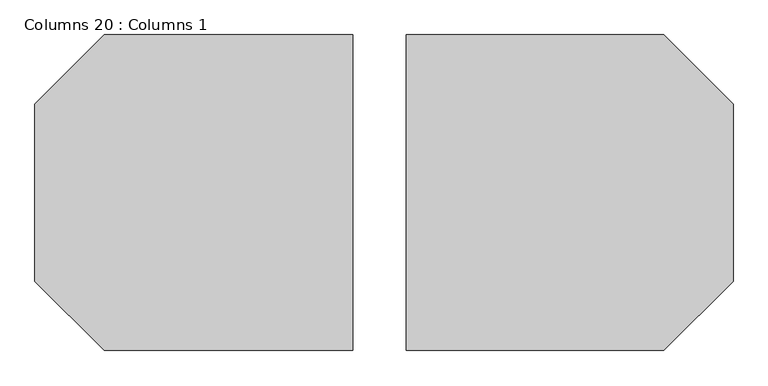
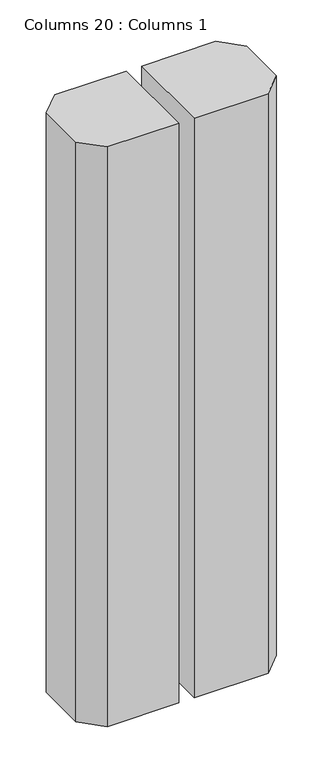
"""IFC4 building model written with IfcOpenShell, lengths in millimetres: column geometry, Columns 20 : Columns 1."""

from ifc_helpers import new_model, si_unit, origin, origin_with_axes, place, context, project, spatial, polyline, outline, extrude, source, transform, mapped, element, save


def columns_20_columns_1_f9736cae(model_context):
    return source(origin(), model_context, "Body", "SweptSolid", [
        extrude(outline(polyline([(-18005.8288561, 110963.9246538), (-18361.4288561, 110963.9246538), (-18460.2116734, 111062.7074711), (-18460.2116734, 111316.7074711), (-18361.4288561, 111415.4902884), (-18005.8288561, 111415.4902884), (-18005.8288561, 110963.9246538)])), origin_with_axes(), (0.0, 0.0, 1.0), 3048.0),
        extrude(outline(polyline([(-17462.5460387, 111062.7074711), (-17561.3288561, 110963.9246538), (-17929.6288561, 110963.9246538), (-17929.6288561, 111415.4902884), (-17561.3288561, 111415.4902884), (-17462.5460387, 111316.7074711), (-17462.5460387, 111062.7074711)])), origin_with_axes(), (0.0, 0.0, 1.0), 3048.0),
    ])


if __name__ == "__main__":
    model = new_model("IFC4")
    model_context = context("Model", 3, world=origin())
    ifc_project = project(units=[si_unit("LENGTHUNIT", "METRE", prefix="MILLI")], contexts=[model_context])
    site = spatial("IfcSite", under=ifc_project)
    building = spatial("IfcBuilding", under=site)
    placement = place(None, origin())
    columns_20_columns_1_shape = columns_20_columns_1_f9736cae(model_context)
    element("IfcColumn", 1, ObjectType="Columns 20 : Columns 1", at=placement, inside=building, context=model_context, shape_type="MappedRepresentation", body=[
        mapped(columns_20_columns_1_shape, transform((0.0, 0.0, 0.0), x_axis=(1.0, 0.0, 0.0), y_axis=(0.0, 1.0, 0.0), z_axis=(0.0, 0.0, 1.0))),
    ])
    save(model, "model.ifc")
